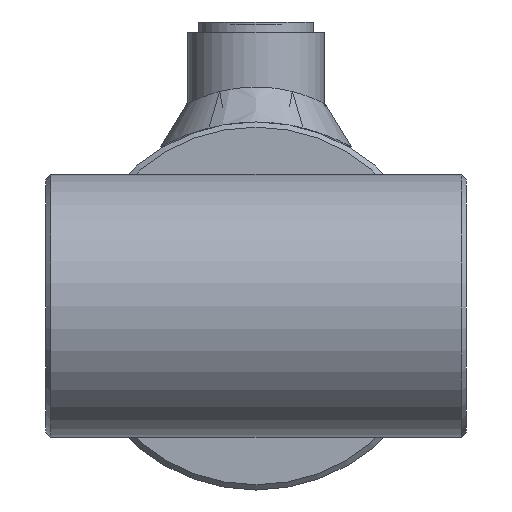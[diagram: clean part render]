
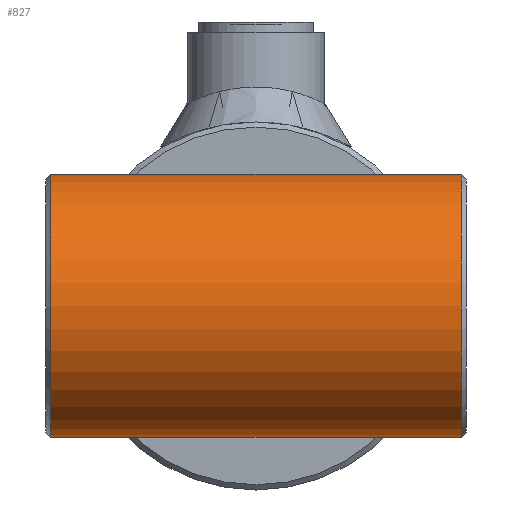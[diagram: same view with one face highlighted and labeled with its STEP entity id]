
A CAD part, left-side view. The second image highlights one B-rep face of the part: STEP entity #827.
In plain terms, the highlighted cylindrical face has radius 25 mm (diameter 50 mm), a full revolution.
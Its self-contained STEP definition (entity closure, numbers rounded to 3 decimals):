
#827 = ADVANCED_FACE( '', ( #1581, #1582 ), #1583, .T. );
#1581 = FACE_OUTER_BOUND( '', #3876, .T. );
#1582 = FACE_OUTER_BOUND( '', #3877, .T. );
#1583 = CYLINDRICAL_SURFACE( '', #3878, 25. );
#3876 = EDGE_LOOP( '', ( #12467 ) );
#3877 = EDGE_LOOP( '', ( #12468 ) );
#3878 = AXIS2_PLACEMENT_3D( '', #12469, #12470, #12471 );
#12467 = ORIENTED_EDGE( '', *, *, #13936, .T. );
#12468 = ORIENTED_EDGE( '', *, *, #13937, .T. );
#12469 = CARTESIAN_POINT( '', ( 0., -40., 0. ) );
#12470 = DIRECTION( '', ( 0., -1., 0. ) );
#12471 = DIRECTION( '', ( 0., 0., 1. ) );
#13936 = EDGE_CURVE( '', #14863, #14863, #14864, .F. );
#13937 = EDGE_CURVE( '', #14865, #14865, #14866, .T. );
#14863 = VERTEX_POINT( '', #16421 );
#14864 = CIRCLE( '', #16422, 25. );
#14865 = VERTEX_POINT( '', #16423 );
#14866 = CIRCLE( '', #16424, 25. );
#16421 = CARTESIAN_POINT( '', ( 0., 39., 25. ) );
#16422 = AXIS2_PLACEMENT_3D( '', #19060, #19061, #19062 );
#16423 = CARTESIAN_POINT( '', ( 0., -39., 25. ) );
#16424 = AXIS2_PLACEMENT_3D( '', #19063, #19064, #19065 );
#19060 = CARTESIAN_POINT( '', ( 0., 39., 0. ) );
#19061 = DIRECTION( '', ( 0., 1., 0. ) );
#19062 = DIRECTION( '', ( 0., 0., 1. ) );
#19063 = CARTESIAN_POINT( '', ( 0., -39., 0. ) );
#19064 = DIRECTION( '', ( 0., 1., 0. ) );
#19065 = DIRECTION( '', ( 0., 0., 1. ) );
